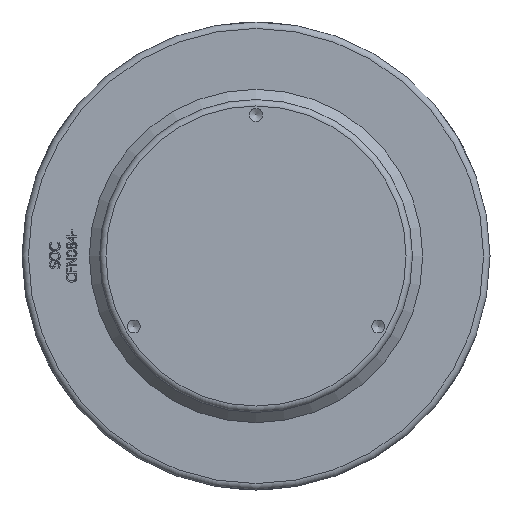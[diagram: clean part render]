
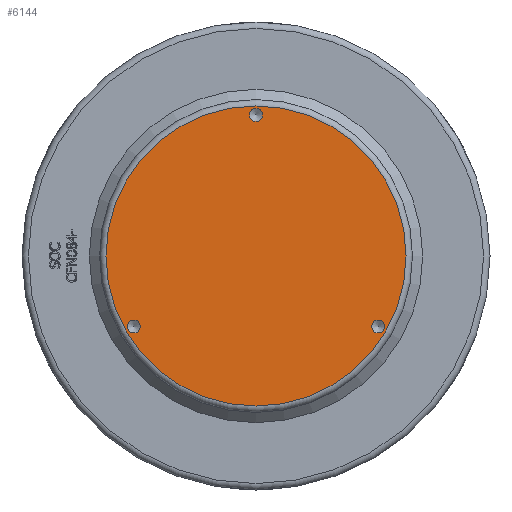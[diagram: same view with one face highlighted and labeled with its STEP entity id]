
A CAD part, front view. The second image highlights one B-rep face of the part: STEP entity #6144.
In plain terms, the highlighted planar face has unit normal (0, -1, 0) as drawn and (0, 1, 0) by its records, which use the part's own axes.
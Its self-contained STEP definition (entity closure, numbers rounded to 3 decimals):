
#99=PLANE('',#6466);
#1761=FACE_BOUND('',#2359,.T.);
#1762=FACE_BOUND('',#2360,.T.);
#1763=FACE_BOUND('',#2361,.T.);
#1985=FACE_OUTER_BOUND('',#2358,.T.);
#2358=EDGE_LOOP('',(#5026));
#2359=EDGE_LOOP('',(#5027));
#2360=EDGE_LOOP('',(#5028));
#2361=EDGE_LOOP('',(#5029));
#2587=CIRCLE('',#6385,5.053);
#2589=CIRCLE('',#6389,5.053);
#2591=CIRCLE('',#6393,5.053);
#2593=CIRCLE('',#6464,117.);
#2613=VERTEX_POINT('',#7484);
#2615=VERTEX_POINT('',#7490);
#2617=VERTEX_POINT('',#7496);
#2911=VERTEX_POINT('',#9601);
#3233=EDGE_CURVE('',#2613,#2613,#2587,.T.);
#3235=EDGE_CURVE('',#2615,#2615,#2589,.T.);
#3237=EDGE_CURVE('',#2617,#2617,#2591,.T.);
#3677=EDGE_CURVE('',#2911,#2911,#2593,.T.);
#5026=ORIENTED_EDGE('',*,*,#3677,.F.);
#5027=ORIENTED_EDGE('',*,*,#3233,.T.);
#5028=ORIENTED_EDGE('',*,*,#3235,.T.);
#5029=ORIENTED_EDGE('',*,*,#3237,.T.);
#6144=ADVANCED_FACE('',(#1985,#1761,#1762,#1763),#99,.T.);
#6385=AXIS2_PLACEMENT_3D('',#7485,#6589,#6590);
#6389=AXIS2_PLACEMENT_3D('',#7491,#6597,#6598);
#6393=AXIS2_PLACEMENT_3D('',#7497,#6605,#6606);
#6464=AXIS2_PLACEMENT_3D('',#9602,#6999,#7000);
#6466=AXIS2_PLACEMENT_3D('',#9605,#7003,#7004);
#6589=DIRECTION('center_axis',(0.,-1.,0.));
#6590=DIRECTION('ref_axis',(-0.5,0.,-0.866));
#6597=DIRECTION('center_axis',(0.,-1.,0.));
#6598=DIRECTION('ref_axis',(-0.5,0.,0.866));
#6605=DIRECTION('center_axis',(0.,-1.,0.));
#6606=DIRECTION('ref_axis',(1.,0.,0.));
#6999=DIRECTION('center_axis',(0.,-1.,0.));
#7000=DIRECTION('ref_axis',(-1.,0.,0.));
#7003=DIRECTION('center_axis',(0.,1.,0.));
#7004=DIRECTION('ref_axis',(0.,0.,1.));
#7484=CARTESIAN_POINT('',(92.736,220.5,-59.376));
#7485=CARTESIAN_POINT('Origin',(95.263,220.5,-55.));
#7490=CARTESIAN_POINT('',(-97.789,220.5,-50.624));
#7491=CARTESIAN_POINT('Origin',(-95.263,220.5,-55.));
#7496=CARTESIAN_POINT('',(5.053,220.5,110.));
#7497=CARTESIAN_POINT('Origin',(0.,220.5,110.));
#9601=CARTESIAN_POINT('',(117.,220.5,0.));
#9602=CARTESIAN_POINT('Origin',(0.,220.5,0.));
#9605=CARTESIAN_POINT('Origin',(122.,220.5,0.));
